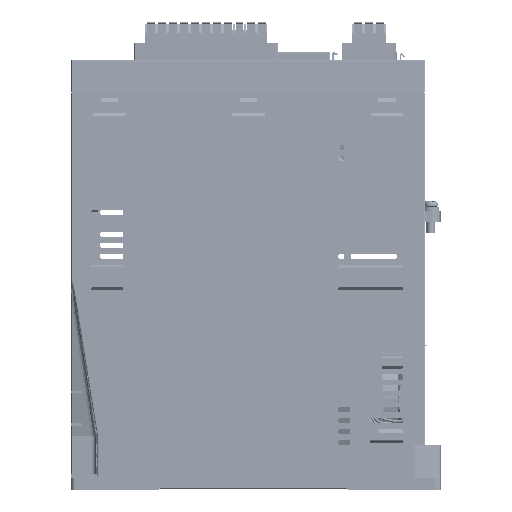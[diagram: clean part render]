
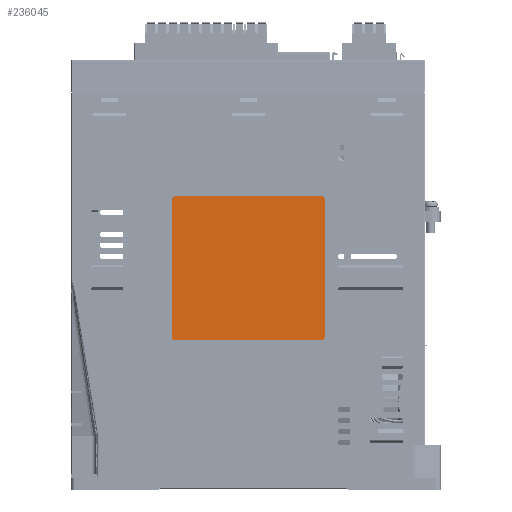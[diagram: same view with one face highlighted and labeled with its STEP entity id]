
A CAD part, left-side view. The second image highlights one B-rep face of the part: STEP entity #236045.
In plain terms, the highlighted planar face has unit normal (-1, 0, 0).
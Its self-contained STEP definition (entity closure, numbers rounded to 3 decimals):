
#21329=LINE('',#377406,#49197);
#21332=LINE('',#377412,#49200);
#21334=LINE('',#377417,#49202);
#21338=LINE('',#377424,#49206);
#49197=VECTOR('',#297812,63.);
#49200=VECTOR('',#297817,67.);
#49202=VECTOR('',#297821,63.);
#49206=VECTOR('',#297827,67.);
#63305=PLANE('',#251156);
#78239=FACE_OUTER_BOUND('',#92107,.T.);
#92107=EDGE_LOOP('',(#202817,#202818,#202819,#202820,#202821,#202822,#202823,
#202824));
#99534=CIRCLE('',#251157,1.5);
#99535=CIRCLE('',#251158,1.5);
#99536=CIRCLE('',#251159,1.5);
#99537=CIRCLE('',#251160,1.5);
#117223=VERTEX_POINT('',#377403);
#117224=VERTEX_POINT('',#377405);
#117225=VERTEX_POINT('',#377409);
#117226=VERTEX_POINT('',#377411);
#117227=VERTEX_POINT('',#377415);
#117228=VERTEX_POINT('',#377416);
#117229=VERTEX_POINT('',#377421);
#117230=VERTEX_POINT('',#377423);
#147139=EDGE_CURVE('',#117224,#117223,#21329,.T.);
#147142=EDGE_CURVE('',#117226,#117225,#21332,.T.);
#147144=EDGE_CURVE('',#117227,#117228,#21334,.T.);
#147148=EDGE_CURVE('',#117230,#117229,#21338,.T.);
#147150=EDGE_CURVE('',#117229,#117227,#99534,.T.);
#147151=EDGE_CURVE('',#117228,#117226,#99535,.T.);
#147152=EDGE_CURVE('',#117225,#117224,#99536,.T.);
#147153=EDGE_CURVE('',#117223,#117230,#99537,.T.);
#202817=ORIENTED_EDGE('',*,*,#147148,.T.);
#202818=ORIENTED_EDGE('',*,*,#147150,.T.);
#202819=ORIENTED_EDGE('',*,*,#147144,.T.);
#202820=ORIENTED_EDGE('',*,*,#147151,.T.);
#202821=ORIENTED_EDGE('',*,*,#147142,.T.);
#202822=ORIENTED_EDGE('',*,*,#147152,.T.);
#202823=ORIENTED_EDGE('',*,*,#147139,.T.);
#202824=ORIENTED_EDGE('',*,*,#147153,.T.);
#236045=ADVANCED_FACE('',(#78239),#63305,.T.);
#251156=AXIS2_PLACEMENT_3D('',#377426,#297829,#297830);
#251157=AXIS2_PLACEMENT_3D('',#377427,#297831,#297832);
#251158=AXIS2_PLACEMENT_3D('',#377428,#297833,#297834);
#251159=AXIS2_PLACEMENT_3D('',#377429,#297835,#297836);
#251160=AXIS2_PLACEMENT_3D('',#377430,#297837,#297838);
#297812=DIRECTION('',(0.,0.,-1.));
#297817=DIRECTION('',(0.,1.,0.));
#297821=DIRECTION('',(0.,0.,1.));
#297827=DIRECTION('',(0.,-1.,0.));
#297829=DIRECTION('center_axis',(-1.,0.,0.));
#297830=DIRECTION('ref_axis',(0.,0.,1.));
#297831=DIRECTION('center_axis',(-1.,0.,0.));
#297832=DIRECTION('ref_axis',(0.,0.,1.));
#297833=DIRECTION('center_axis',(-1.,0.,0.));
#297834=DIRECTION('ref_axis',(0.,0.,1.));
#297835=DIRECTION('center_axis',(-1.,0.,0.));
#297836=DIRECTION('ref_axis',(0.,0.,1.));
#297837=DIRECTION('center_axis',(-1.,0.,0.));
#297838=DIRECTION('ref_axis',(0.,0.,1.));
#377403=CARTESIAN_POINT('',(-57.8,38.5,38.));
#377405=CARTESIAN_POINT('',(-57.8,38.5,101.));
#377406=CARTESIAN_POINT('',(-57.8,38.5,36.5));
#377409=CARTESIAN_POINT('',(-57.8,37.,102.5));
#377411=CARTESIAN_POINT('',(-57.8,-30.,102.5));
#377412=CARTESIAN_POINT('',(-57.8,-31.5,102.5));
#377415=CARTESIAN_POINT('',(-57.8,-31.5,38.));
#377416=CARTESIAN_POINT('',(-57.8,-31.5,101.));
#377417=CARTESIAN_POINT('',(-57.8,-31.5,36.5));
#377421=CARTESIAN_POINT('',(-57.8,-30.,36.5));
#377423=CARTESIAN_POINT('',(-57.8,37.,36.5));
#377424=CARTESIAN_POINT('',(-57.8,-31.5,36.5));
#377426=CARTESIAN_POINT('Origin',(-57.8,38.5,102.5));
#377427=CARTESIAN_POINT('Origin',(-57.8,-30.,38.));
#377428=CARTESIAN_POINT('Origin',(-57.8,-30.,101.));
#377429=CARTESIAN_POINT('Origin',(-57.8,37.,101.));
#377430=CARTESIAN_POINT('Origin',(-57.8,37.,38.));
